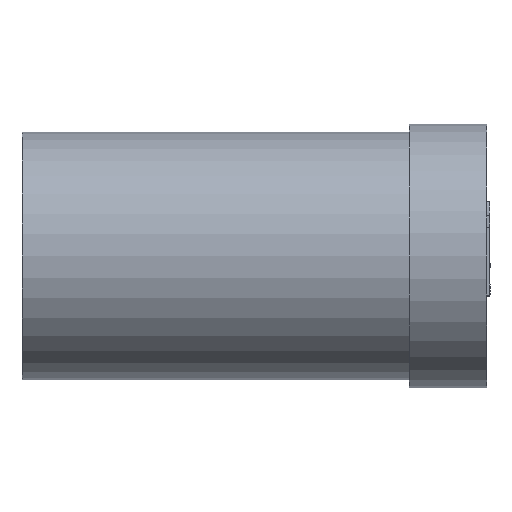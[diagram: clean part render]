
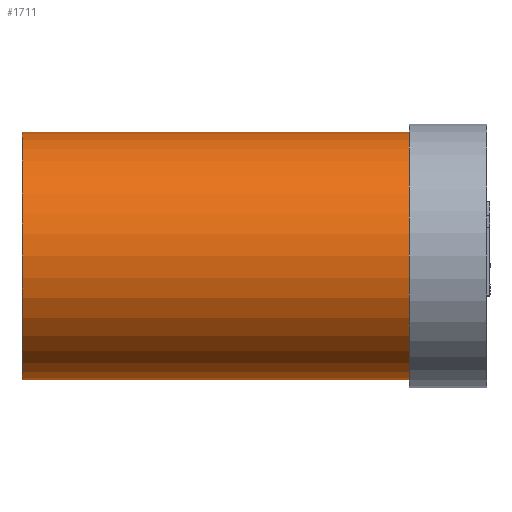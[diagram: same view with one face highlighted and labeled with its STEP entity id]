
A CAD part, left-side view. The second image highlights one B-rep face of the part: STEP entity #1711.
In plain terms, the highlighted cylindrical face has radius 8 mm (diameter 16 mm), a partial arc.
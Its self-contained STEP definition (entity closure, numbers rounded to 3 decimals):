
#44 = DIRECTION ( 'NONE',  ( 0., -1., 0. ) ) ;
#48 = FACE_OUTER_BOUND ( 'NONE', #451, .T. ) ;
#58 = DIRECTION ( 'NONE',  ( 0., 1., 0. ) ) ;
#126 = DIRECTION ( 'NONE',  ( 0., -1., 0. ) ) ;
#136 = EDGE_CURVE ( 'NONE', #1642, #640, #1538, .T. ) ;
#141 = CARTESIAN_POINT ( 'NONE',  ( 0., 10., -8. ) ) ;
#146 = CARTESIAN_POINT ( 'NONE',  ( 0., -10., 8. ) ) ;
#171 = CARTESIAN_POINT ( 'NONE',  ( 0., -10., -8. ) ) ;
#173 = CYLINDRICAL_SURFACE ( 'NONE', #192, 8. ) ;
#192 = AXIS2_PLACEMENT_3D ( 'NONE', #433, #976, #1380 ) ;
#215 = AXIS2_PLACEMENT_3D ( 'NONE', #526, #1459, #1464 ) ;
#433 = CARTESIAN_POINT ( 'NONE',  ( 0., 10., 0. ) ) ;
#451 = EDGE_LOOP ( 'NONE', ( #1306, #975, #1160, #955 ) ) ;
#526 = CARTESIAN_POINT ( 'NONE',  ( 0., 15., 0. ) ) ;
#543 = VERTEX_POINT ( 'NONE', #171 ) ;
#563 = EDGE_CURVE ( 'NONE', #543, #1200, #770, .T. ) ;
#575 = CARTESIAN_POINT ( 'NONE',  ( 0., 15., -8. ) ) ;
#634 = CARTESIAN_POINT ( 'NONE',  ( 0., 10., 8. ) ) ;
#640 = VERTEX_POINT ( 'NONE', #575 ) ;
#706 = CARTESIAN_POINT ( 'NONE',  ( 0., -10., 0. ) ) ;
#770 = CIRCLE ( 'NONE', #934, 8. ) ;
#934 = AXIS2_PLACEMENT_3D ( 'NONE', #706, #58, #1248 ) ;
#955 = ORIENTED_EDGE ( 'NONE', *, *, #563, .T. ) ;
#975 = ORIENTED_EDGE ( 'NONE', *, *, #136, .T. ) ;
#976 = DIRECTION ( 'NONE',  ( 0., -1., 0. ) ) ;
#989 = VECTOR ( 'NONE', #126, 1000. ) ;
#1160 = ORIENTED_EDGE ( 'NONE', *, *, #1670, .T. ) ;
#1200 = VERTEX_POINT ( 'NONE', #146 ) ;
#1243 = CARTESIAN_POINT ( 'NONE',  ( 0., 15., 8. ) ) ;
#1248 = DIRECTION ( 'NONE',  ( 0., 0., -1. ) ) ;
#1306 = ORIENTED_EDGE ( 'NONE', *, *, #1481, .F. ) ;
#1341 = LINE ( 'NONE', #634, #989 ) ;
#1380 = DIRECTION ( 'NONE',  ( 0., 0., -1. ) ) ;
#1383 = LINE ( 'NONE', #141, #1513 ) ;
#1459 = DIRECTION ( 'NONE',  ( 0., -1., 0. ) ) ;
#1464 = DIRECTION ( 'NONE',  ( 0., 0., 1. ) ) ;
#1481 = EDGE_CURVE ( 'NONE', #1642, #1200, #1341, .T. ) ;
#1513 = VECTOR ( 'NONE', #44, 1000. ) ;
#1538 = CIRCLE ( 'NONE', #215, 8. ) ;
#1642 = VERTEX_POINT ( 'NONE', #1243 ) ;
#1670 = EDGE_CURVE ( 'NONE', #640, #543, #1383, .T. ) ;
#1711 = ADVANCED_FACE ( 'NONE', ( #48 ), #173, .T. ) ;
